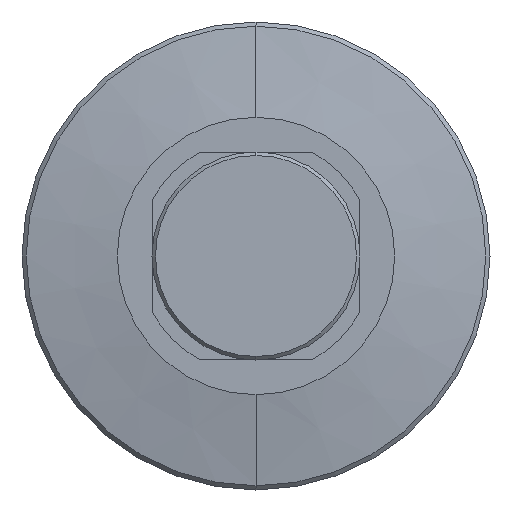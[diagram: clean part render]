
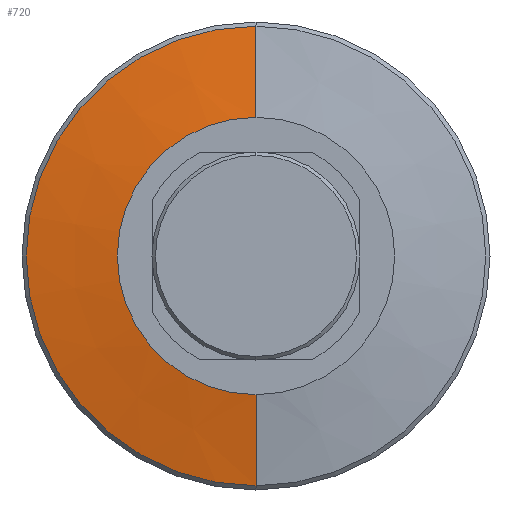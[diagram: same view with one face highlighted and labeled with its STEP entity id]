
A CAD part, left-side view. The second image highlights one B-rep face of the part: STEP entity #720.
In plain terms, the highlighted conical face has half-angle 80 degrees and reference radius 13.5 mm.
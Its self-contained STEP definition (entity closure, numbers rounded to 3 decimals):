
#74 = CARTESIAN_POINT ( 'NONE',  ( 29.5, 0., 8. ) ) ;
#126 = ORIENTED_EDGE ( 'NONE', *, *, #702, .F. ) ;
#149 = DIRECTION ( 'NONE',  ( 0.174, 0., -0.985 ) ) ;
#181 = VECTOR ( 'NONE', #149, 1000. ) ;
#244 = DIRECTION ( 'NONE',  ( -1., 0., 0. ) ) ;
#269 = AXIS2_PLACEMENT_3D ( 'NONE', #901, #244, #1008 ) ;
#271 = VECTOR ( 'NONE', #1062, 1000. ) ;
#387 = VERTEX_POINT ( 'NONE', #74 ) ;
#412 = EDGE_CURVE ( 'NONE', #1255, #517, #1140, .T. ) ;
#448 = CARTESIAN_POINT ( 'NONE',  ( 30.427, 0., -13.257 ) ) ;
#490 = LINE ( 'NONE', #1124, #181 ) ;
#517 = VERTEX_POINT ( 'NONE', #448 ) ;
#607 = DIRECTION ( 'NONE',  ( 1., 0., 0. ) ) ;
#645 = CARTESIAN_POINT ( 'NONE',  ( 30.47, 0., 13.5 ) ) ;
#653 = DIRECTION ( 'NONE',  ( -1., 0., 0. ) ) ;
#702 = EDGE_CURVE ( 'NONE', #1191, #517, #490, .T. ) ;
#720 = ADVANCED_FACE ( 'NONE', ( #807 ), #1246, .T. ) ;
#796 = ORIENTED_EDGE ( 'NONE', *, *, #412, .T. ) ;
#807 = FACE_OUTER_BOUND ( 'NONE', #1300, .T. ) ;
#819 = DIRECTION ( 'NONE',  ( 0., 0., -1. ) ) ;
#900 = EDGE_CURVE ( 'NONE', #387, #1255, #926, .T. ) ;
#901 = CARTESIAN_POINT ( 'NONE',  ( 29.5, 0., 0. ) ) ;
#926 = LINE ( 'NONE', #645, #271 ) ;
#932 = AXIS2_PLACEMENT_3D ( 'NONE', #1259, #653, #1356 ) ;
#933 = CARTESIAN_POINT ( 'NONE',  ( 30.47, 0., 0. ) ) ;
#1008 = DIRECTION ( 'NONE',  ( 0., 0., 1. ) ) ;
#1052 = CIRCLE ( 'NONE', #269, 8. ) ;
#1062 = DIRECTION ( 'NONE',  ( 0.174, 0., 0.985 ) ) ;
#1084 = CARTESIAN_POINT ( 'NONE',  ( 30.427, 0., 13.257 ) ) ;
#1124 = CARTESIAN_POINT ( 'NONE',  ( 30.47, 0., -13.5 ) ) ;
#1140 = CIRCLE ( 'NONE', #932, 13.257 ) ;
#1172 = CARTESIAN_POINT ( 'NONE',  ( 29.5, 0., -8. ) ) ;
#1191 = VERTEX_POINT ( 'NONE', #1172 ) ;
#1235 = AXIS2_PLACEMENT_3D ( 'NONE', #933, #607, #819 ) ;
#1237 = ORIENTED_EDGE ( 'NONE', *, *, #900, .T. ) ;
#1246 = CONICAL_SURFACE ( 'NONE', #1235, 13.5, 1.396 ) ;
#1255 = VERTEX_POINT ( 'NONE', #1084 ) ;
#1259 = CARTESIAN_POINT ( 'NONE',  ( 30.427, 0., 0. ) ) ;
#1300 = EDGE_LOOP ( 'NONE', ( #1312, #1237, #796, #126 ) ) ;
#1312 = ORIENTED_EDGE ( 'NONE', *, *, #1360, .F. ) ;
#1356 = DIRECTION ( 'NONE',  ( 0., 0., 1. ) ) ;
#1360 = EDGE_CURVE ( 'NONE', #387, #1191, #1052, .T. ) ;
